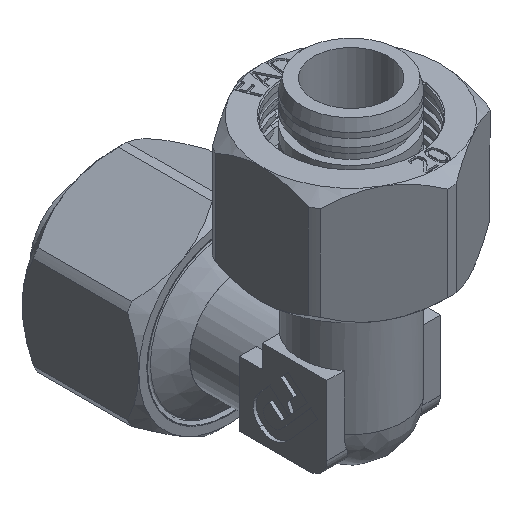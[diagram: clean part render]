
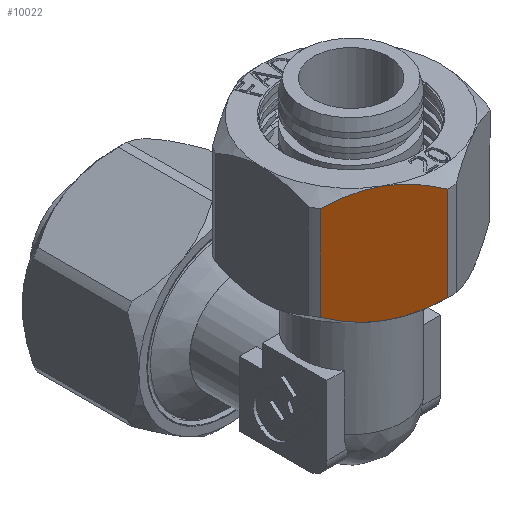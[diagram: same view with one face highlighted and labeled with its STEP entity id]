
A CAD part, isometric view. The second image highlights one B-rep face of the part: STEP entity #10022.
In plain terms, the highlighted planar face has unit normal (-0.5, -0.866, 0).
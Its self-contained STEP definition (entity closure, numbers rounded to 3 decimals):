
#42=(
BOUNDED_CURVE()
B_SPLINE_CURVE(2,(#23661,#23662,#23663),.UNSPECIFIED.,.F.,.F.)
B_SPLINE_CURVE_WITH_KNOTS((3,3),(0.989,1.765),
 .UNSPECIFIED.)
CURVE()
GEOMETRIC_REPRESENTATION_ITEM()
RATIONAL_B_SPLINE_CURVE((1.,1.04,1.017))
REPRESENTATION_ITEM('')
);
#52=(
BOUNDED_CURVE()
B_SPLINE_CURVE(2,(#23720,#23721,#23722),.UNSPECIFIED.,.F.,.F.)
B_SPLINE_CURVE_WITH_KNOTS((3,3),(0.213,0.989),
 .UNSPECIFIED.)
CURVE()
GEOMETRIC_REPRESENTATION_ITEM()
RATIONAL_B_SPLINE_CURVE((1.017,1.04,1.))
REPRESENTATION_ITEM('')
);
#53=(
BOUNDED_CURVE()
B_SPLINE_CURVE(2,(#23726,#23727,#23728),.UNSPECIFIED.,.F.,.F.)
B_SPLINE_CURVE_WITH_KNOTS((3,3),(0.05,0.799),
 .UNSPECIFIED.)
CURVE()
GEOMETRIC_REPRESENTATION_ITEM()
RATIONAL_B_SPLINE_CURVE((1.004,1.033,1.))
REPRESENTATION_ITEM('')
);
#56=(
BOUNDED_CURVE()
B_SPLINE_CURVE(2,(#23741,#23742,#23743),.UNSPECIFIED.,.F.,.F.)
B_SPLINE_CURVE_WITH_KNOTS((3,3),(0.799,1.548),
 .UNSPECIFIED.)
CURVE()
GEOMETRIC_REPRESENTATION_ITEM()
RATIONAL_B_SPLINE_CURVE((1.,1.033,1.004))
REPRESENTATION_ITEM('')
);
#556=PLANE('',#10703);
#1571=FACE_OUTER_BOUND('',#2164,.T.);
#2164=EDGE_LOOP('',(#7862,#7863,#7864,#7865,#7866,#7867));
#2850=LINE('',#23792,#3478);
#2853=LINE('',#23797,#3481);
#3478=VECTOR('',#11839,10.);
#3481=VECTOR('',#11846,10.);
#4430=VERTEX_POINT('',#23642);
#4435=VERTEX_POINT('',#23658);
#4436=VERTEX_POINT('',#23660);
#4450=VERTEX_POINT('',#23719);
#4451=VERTEX_POINT('',#23725);
#4454=VERTEX_POINT('',#23739);
#5662=EDGE_CURVE('',#4436,#4435,#42,.T.);
#5682=EDGE_CURVE('',#4450,#4436,#52,.T.);
#5684=EDGE_CURVE('',#4451,#4430,#53,.T.);
#5689=EDGE_CURVE('',#4430,#4454,#56,.T.);
#5706=EDGE_CURVE('',#4454,#4450,#2850,.T.);
#5709=EDGE_CURVE('',#4451,#4435,#2853,.T.);
#7862=ORIENTED_EDGE('',*,*,#5662,.T.);
#7863=ORIENTED_EDGE('',*,*,#5709,.F.);
#7864=ORIENTED_EDGE('',*,*,#5684,.T.);
#7865=ORIENTED_EDGE('',*,*,#5689,.T.);
#7866=ORIENTED_EDGE('',*,*,#5706,.T.);
#7867=ORIENTED_EDGE('',*,*,#5682,.T.);
#10022=ADVANCED_FACE('',(#1571),#556,.T.);
#10703=AXIS2_PLACEMENT_3D('',#23807,#11861,#11862);
#11839=DIRECTION('',(0.,0.,-1.));
#11846=DIRECTION('',(0.,0.,-1.));
#11861=DIRECTION('center_axis',(-0.5,-0.866,0.));
#11862=DIRECTION('ref_axis',(-0.866,0.5,0.));
#23642=CARTESIAN_POINT('',(-6.875,-11.908,0.));
#23658=CARTESIAN_POINT('',(-0.679,-15.485,-16.25));
#23660=CARTESIAN_POINT('',(-6.875,-11.908,-18.));
#23661=CARTESIAN_POINT('Ctrl Pts',(-6.875,-11.908,-18.));
#23662=CARTESIAN_POINT('Ctrl Pts',(-3.962,-13.589,
-18.));
#23663=CARTESIAN_POINT('Ctrl Pts',(-0.679,-15.485,
-16.25));
#23719=CARTESIAN_POINT('',(-13.071,-8.331,-16.25));
#23720=CARTESIAN_POINT('Ctrl Pts',(-13.071,-8.331,
-16.25));
#23721=CARTESIAN_POINT('Ctrl Pts',(-9.788,-10.226,
-18.));
#23722=CARTESIAN_POINT('Ctrl Pts',(-6.875,-11.908,-18.));
#23725=CARTESIAN_POINT('',(-0.679,-15.485,-1.75));
#23726=CARTESIAN_POINT('Ctrl Pts',(-0.679,-15.485,
-1.75));
#23727=CARTESIAN_POINT('Ctrl Pts',(-3.962,-13.589,
0.));
#23728=CARTESIAN_POINT('Ctrl Pts',(-6.875,-11.908,0.));
#23739=CARTESIAN_POINT('',(-13.071,-8.331,-1.75));
#23741=CARTESIAN_POINT('Ctrl Pts',(-6.875,-11.908,0.));
#23742=CARTESIAN_POINT('Ctrl Pts',(-9.788,-10.226,
0.));
#23743=CARTESIAN_POINT('Ctrl Pts',(-13.071,-8.331,
-1.75));
#23792=CARTESIAN_POINT('',(-13.071,-8.331,0.));
#23797=CARTESIAN_POINT('',(-0.679,-15.485,0.));
#23807=CARTESIAN_POINT('Origin',(-0.679,-15.485,0.));
